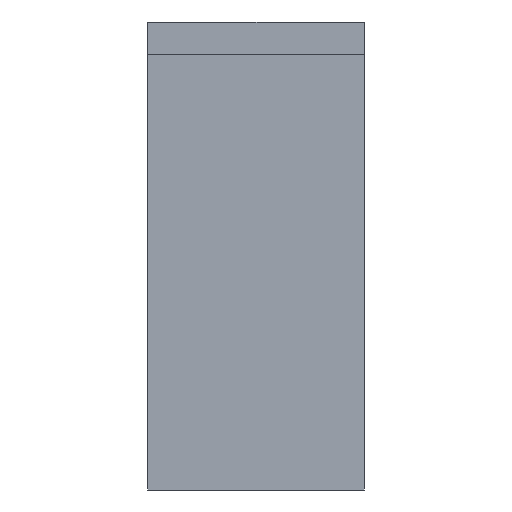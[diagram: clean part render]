
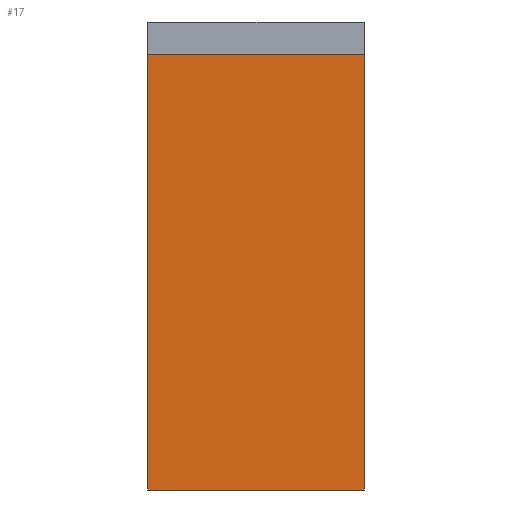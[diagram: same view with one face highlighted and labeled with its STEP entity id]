
A CAD part, left-side view. The second image highlights one B-rep face of the part: STEP entity #17.
In plain terms, the highlighted planar face has unit normal (-1, 0, 0).
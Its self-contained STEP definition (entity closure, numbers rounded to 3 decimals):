
#17 = ADVANCED_FACE('',(#18),#32,.F.);
#18 = FACE_BOUND('',#19,.F.);
#19 = EDGE_LOOP('',(#20,#55,#83,#111));
#20 = ORIENTED_EDGE('',*,*,#21,.F.);
#21 = EDGE_CURVE('',#22,#24,#26,.T.);
#22 = VERTEX_POINT('',#23);
#23 = CARTESIAN_POINT('',(0.,-10.,0.));
#24 = VERTEX_POINT('',#25);
#25 = CARTESIAN_POINT('',(0.,-10.,40.3));
#26 = SURFACE_CURVE('',#27,(#31,#43),.PCURVE_S1.);
#27 = LINE('',#28,#29);
#28 = CARTESIAN_POINT('',(0.,-10.,0.));
#29 = VECTOR('',#30,1.);
#30 = DIRECTION('',(0.,0.,1.));
#31 = PCURVE('',#32,#37);
#32 = PLANE('',#33);
#33 = AXIS2_PLACEMENT_3D('',#34,#35,#36);
#34 = CARTESIAN_POINT('',(0.,-10.,0.));
#35 = DIRECTION('',(1.,0.,0.));
#36 = DIRECTION('',(0.,0.,1.));
#37 = DEFINITIONAL_REPRESENTATION('',(#38),#42);
#38 = LINE('',#39,#40);
#39 = CARTESIAN_POINT('',(0.,0.));
#40 = VECTOR('',#41,1.);
#41 = DIRECTION('',(1.,0.));
#42 = ( GEOMETRIC_REPRESENTATION_CONTEXT(2) 
PARAMETRIC_REPRESENTATION_CONTEXT() REPRESENTATION_CONTEXT('2D SPACE',''
  ) );
#43 = PCURVE('',#44,#49);
#44 = PLANE('',#45);
#45 = AXIS2_PLACEMENT_3D('',#46,#47,#48);
#46 = CARTESIAN_POINT('',(0.,-10.,0.));
#47 = DIRECTION('',(0.,1.,0.));
#48 = DIRECTION('',(0.,0.,1.));
#49 = DEFINITIONAL_REPRESENTATION('',(#50),#54);
#50 = LINE('',#51,#52);
#51 = CARTESIAN_POINT('',(0.,0.));
#52 = VECTOR('',#53,1.);
#53 = DIRECTION('',(1.,0.));
#54 = ( GEOMETRIC_REPRESENTATION_CONTEXT(2) 
PARAMETRIC_REPRESENTATION_CONTEXT() REPRESENTATION_CONTEXT('2D SPACE',''
  ) );
#55 = ORIENTED_EDGE('',*,*,#56,.T.);
#56 = EDGE_CURVE('',#22,#57,#59,.T.);
#57 = VERTEX_POINT('',#58);
#58 = CARTESIAN_POINT('',(0.,10.,0.));
#59 = SURFACE_CURVE('',#60,(#64,#71),.PCURVE_S1.);
#60 = LINE('',#61,#62);
#61 = CARTESIAN_POINT('',(0.,-10.,0.));
#62 = VECTOR('',#63,1.);
#63 = DIRECTION('',(0.,1.,0.));
#64 = PCURVE('',#32,#65);
#65 = DEFINITIONAL_REPRESENTATION('',(#66),#70);
#66 = LINE('',#67,#68);
#67 = CARTESIAN_POINT('',(0.,0.));
#68 = VECTOR('',#69,1.);
#69 = DIRECTION('',(0.,-1.));
#70 = ( GEOMETRIC_REPRESENTATION_CONTEXT(2) 
PARAMETRIC_REPRESENTATION_CONTEXT() REPRESENTATION_CONTEXT('2D SPACE',''
  ) );
#71 = PCURVE('',#72,#77);
#72 = PLANE('',#73);
#73 = AXIS2_PLACEMENT_3D('',#74,#75,#76);
#74 = CARTESIAN_POINT('',(0.,-10.,0.));
#75 = DIRECTION('',(0.,0.,1.));
#76 = DIRECTION('',(1.,0.,0.));
#77 = DEFINITIONAL_REPRESENTATION('',(#78),#82);
#78 = LINE('',#79,#80);
#79 = CARTESIAN_POINT('',(0.,0.));
#80 = VECTOR('',#81,1.);
#81 = DIRECTION('',(0.,1.));
#82 = ( GEOMETRIC_REPRESENTATION_CONTEXT(2) 
PARAMETRIC_REPRESENTATION_CONTEXT() REPRESENTATION_CONTEXT('2D SPACE',''
  ) );
#83 = ORIENTED_EDGE('',*,*,#84,.F.);
#84 = EDGE_CURVE('',#85,#57,#87,.T.);
#85 = VERTEX_POINT('',#86);
#86 = CARTESIAN_POINT('',(0.,10.,40.3));
#87 = SURFACE_CURVE('',#88,(#92,#99),.PCURVE_S1.);
#88 = LINE('',#89,#90);
#89 = CARTESIAN_POINT('',(0.,10.,43.3));
#90 = VECTOR('',#91,1.);
#91 = DIRECTION('',(0.,0.,-1.));
#92 = PCURVE('',#32,#93);
#93 = DEFINITIONAL_REPRESENTATION('',(#94),#98);
#94 = LINE('',#95,#96);
#95 = CARTESIAN_POINT('',(43.3,-20.));
#96 = VECTOR('',#97,1.);
#97 = DIRECTION('',(-1.,0.));
#98 = ( GEOMETRIC_REPRESENTATION_CONTEXT(2) 
PARAMETRIC_REPRESENTATION_CONTEXT() REPRESENTATION_CONTEXT('2D SPACE',''
  ) );
#99 = PCURVE('',#100,#105);
#100 = PLANE('',#101);
#101 = AXIS2_PLACEMENT_3D('',#102,#103,#104);
#102 = CARTESIAN_POINT('',(0.,10.,0.));
#103 = DIRECTION('',(0.,1.,0.));
#104 = DIRECTION('',(0.,0.,1.));
#105 = DEFINITIONAL_REPRESENTATION('',(#106),#110);
#106 = LINE('',#107,#108);
#107 = CARTESIAN_POINT('',(43.3,0.));
#108 = VECTOR('',#109,1.);
#109 = DIRECTION('',(-1.,0.));
#110 = ( GEOMETRIC_REPRESENTATION_CONTEXT(2) 
PARAMETRIC_REPRESENTATION_CONTEXT() REPRESENTATION_CONTEXT('2D SPACE',''
  ) );
#111 = ORIENTED_EDGE('',*,*,#112,.T.);
#112 = EDGE_CURVE('',#85,#24,#113,.T.);
#113 = SURFACE_CURVE('',#114,(#118,#124),.PCURVE_S1.);
#114 = LINE('',#115,#116);
#115 = CARTESIAN_POINT('',(0.,-10.,40.3));
#116 = VECTOR('',#117,1.);
#117 = DIRECTION('',(0.,-1.,0.));
#118 = PCURVE('',#32,#119);
#119 = DEFINITIONAL_REPRESENTATION('',(#120),#123);
#120 = B_SPLINE_CURVE_WITH_KNOTS('',1,(#121,#122),.UNSPECIFIED.,.F.,.F.,
  (2,2),(-20.,0.),.PIECEWISE_BEZIER_KNOTS.);
#121 = CARTESIAN_POINT('',(40.3,-20.));
#122 = CARTESIAN_POINT('',(40.3,0.));
#123 = ( GEOMETRIC_REPRESENTATION_CONTEXT(2) 
PARAMETRIC_REPRESENTATION_CONTEXT() REPRESENTATION_CONTEXT('2D SPACE',''
  ) );
#124 = PCURVE('',#125,#130);
#125 = PLANE('',#126);
#126 = AXIS2_PLACEMENT_3D('',#127,#128,#129);
#127 = CARTESIAN_POINT('',(-41.4,-10.,40.3));
#128 = DIRECTION('',(0.,0.,1.));
#129 = DIRECTION('',(1.,0.,0.));
#130 = DEFINITIONAL_REPRESENTATION('',(#131),#134);
#131 = B_SPLINE_CURVE_WITH_KNOTS('',1,(#132,#133),.UNSPECIFIED.,.F.,.F.,
  (2,2),(-20.,0.),.PIECEWISE_BEZIER_KNOTS.);
#132 = CARTESIAN_POINT('',(41.4,20.));
#133 = CARTESIAN_POINT('',(41.4,0.));
#134 = ( GEOMETRIC_REPRESENTATION_CONTEXT(2) 
PARAMETRIC_REPRESENTATION_CONTEXT() REPRESENTATION_CONTEXT('2D SPACE',''
  ) );
